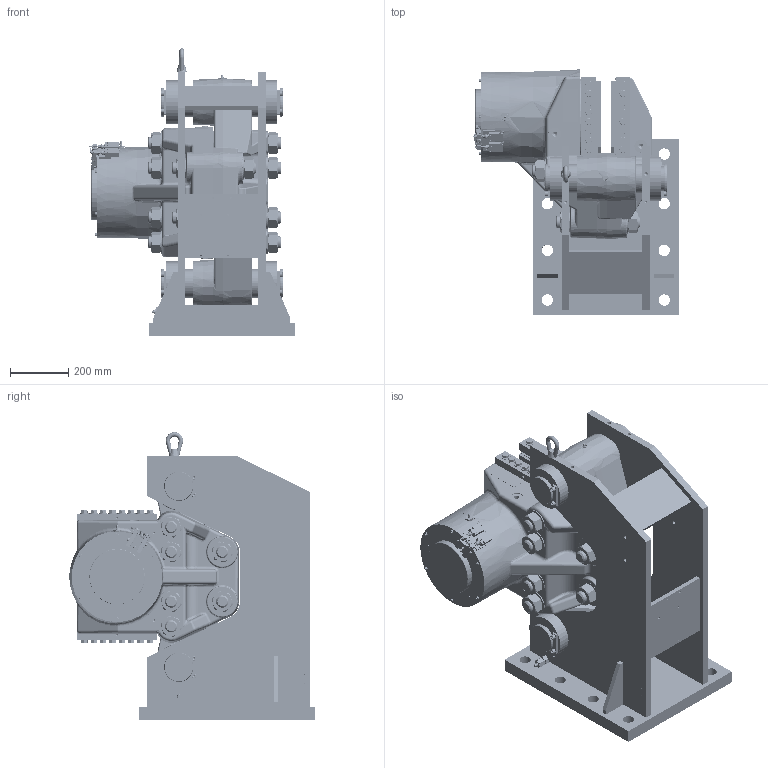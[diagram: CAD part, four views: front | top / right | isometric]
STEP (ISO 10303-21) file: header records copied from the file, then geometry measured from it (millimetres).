
FILE_DESCRIPTION((''),'2;1');
FILE_NAME('HS_215_FHM-560L-H','2020-10-09T',('BOLS'),(''),'CREO PARAMETRIC BY PTC INC, 2018360','CREO PARAMETRIC BY PTC INC, 2018360','');
FILE_SCHEMA(('CONFIG_CONTROL_DESIGN'));
Products named in the file (1): HS_215_FHM-560L-H
Bounding box: 704.1 x 839.11 x 985 mm (x, y, z)
Volume: 93595601.3 mm3; surface area: 6399626 mm2
Topology: 7 solids, 115 shells, 4143 faces, 10112 edges, 6180 vertices
Faces by surface type: plane 1450, cylinder 1233, cone 912, bspline 293, torus 177, sphere 74, revolution 4
Entity records: 189877 total; most frequent: CARTESIAN_POINT 66057, ORIENTED_EDGE 19598, DIRECTION 19398, PRESENTATION_STYLE_ASSIGNMENT 9806, STYLED_ITEM 9806, CURVE_STYLE 9799, EDGE_CURVE 9799, AXIS2_PLACEMENT_3D 7677
